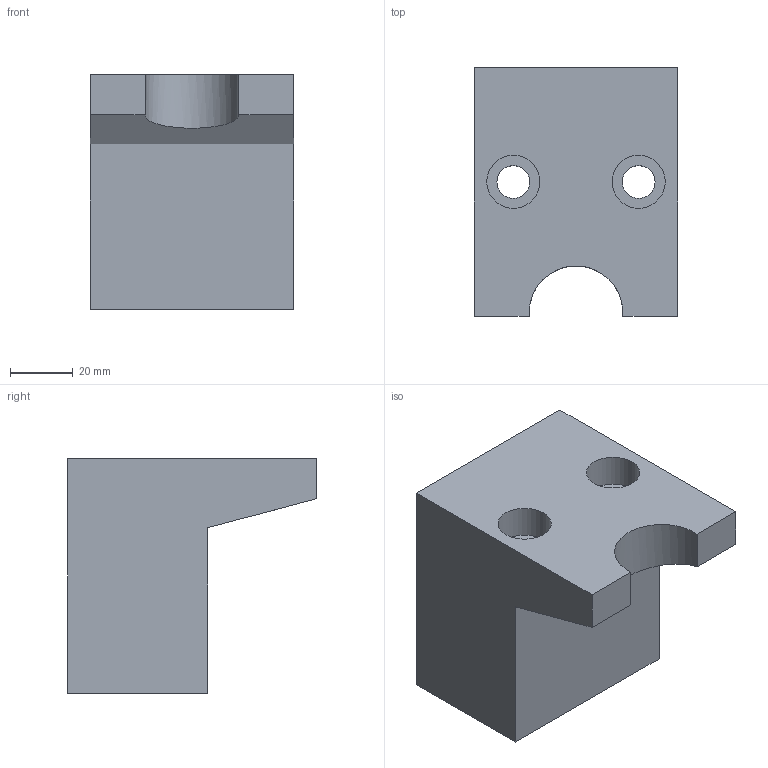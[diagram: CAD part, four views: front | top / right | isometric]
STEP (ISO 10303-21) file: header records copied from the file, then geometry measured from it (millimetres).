
FILE_DESCRIPTION( ( 'Unknown' ), '1' );
FILE_NAME( 'C:/Drawings/CDP/Support Bracket 91 Pitch And Shaft Support/Loose Support and 300 Shaft Support/Tooldrawings/Heel Block.stp', 'Unknown', ( 'Unknown' ), ( 'Unknown' ), 'XStep 1.0', 'Unknown', ' ' );
FILE_SCHEMA( ( 'CONFIG_CONTROL_DESIGN' ) );
Length unit declared in the file: millimetre
Products named in the file (1): 1
Bounding box: 65 x 79.5 x 75 mm (x, y, z)
Volume: 236040 mm3; surface area: 32114 mm2
Topology: 1 solids, 1 shells, 16 faces, 38 edges, 26 vertices
Faces by surface type: plane 11, cylinder 5
Full cylindrical faces by diameter (mm): 10.5 x2, 17 x2
Entity records: 482 total; most frequent: DIRECTION 76, CARTESIAN_POINT 73, ORIENTED_EDGE 64, EDGE_CURVE 32, AXIS2_PLACEMENT_3D 27, EDGE_LOOP 26, VERTEX_POINT 24, LINE 22
